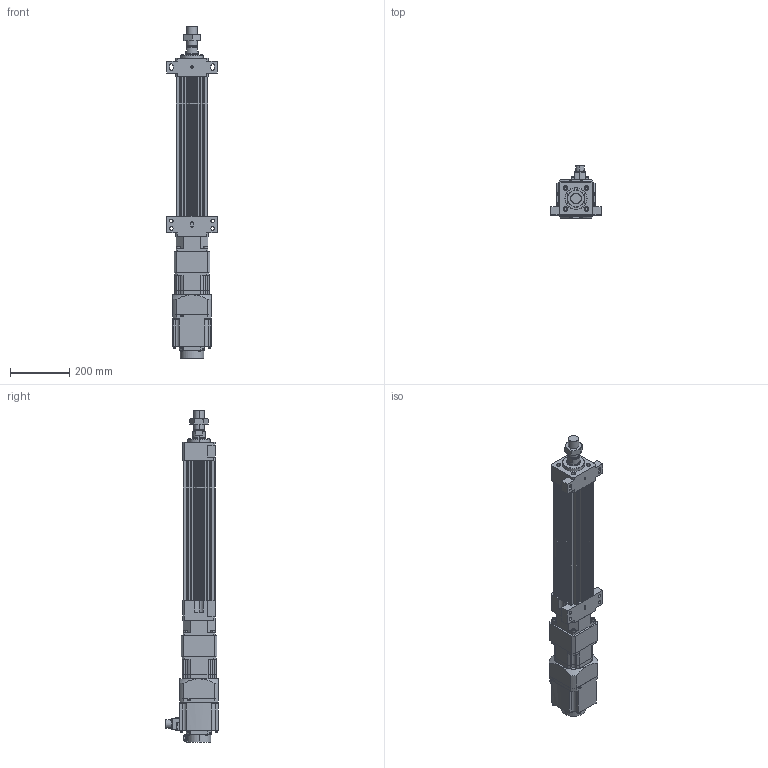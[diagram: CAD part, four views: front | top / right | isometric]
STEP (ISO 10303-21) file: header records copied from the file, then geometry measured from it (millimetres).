
FILE_DESCRIPTION (( 'STEP AP203' ), '1' );
FILE_NAME ('HES110NS(HS)-S300-W015G00-M-FFB.STEP', '2023-01-27T11:52:05', ( 'tms' ), ( '' ), 'SwSTEP 2.0', 'SolidWorks 2013', '' );
FILE_SCHEMA (( 'CONFIG_CONTROL_DESIGN' ));
Length unit declared in the file: millimetre
Products named in the file (8): AB1151; AB115-003[HG-SR152]; P0401400706; HES110 ROD M ST300; HES110NS(HS)-S300-W015G00-M-FFB; M36X1.5P; HG-SR152; HES110-S300-G120-FFB
Assembly tree (7 placements, depth 3):
  HES110NS(HS)-S300-W015G00-M-FFB
    HES110-S300-G120-FFB
    HES110 ROD M ST300
    AB115-003[HG-SR152]
      AB1151
      P0401400706
    HG-SR152
    M36X1.5P
Bounding box: 170 x 177.49 x 1121.5 mm (x, y, z)
Volume: 7296997.1 mm3; surface area: 1001133.5 mm2
Topology: 4 solids, 15 shells, 1194 faces, 3023 edges, 1968 vertices
Faces by surface type: plane 571, cylinder 531, cone 80, bspline 8, torus 4
Entity records: 37745 total; most frequent: CARTESIAN_POINT 7162, DIRECTION 6520, ORIENTED_EDGE 5998, EDGE_CURVE 3009, AXIS2_PLACEMENT_3D 2386, VERTEX_POINT 1968, VECTOR 1748, LINE 1748
